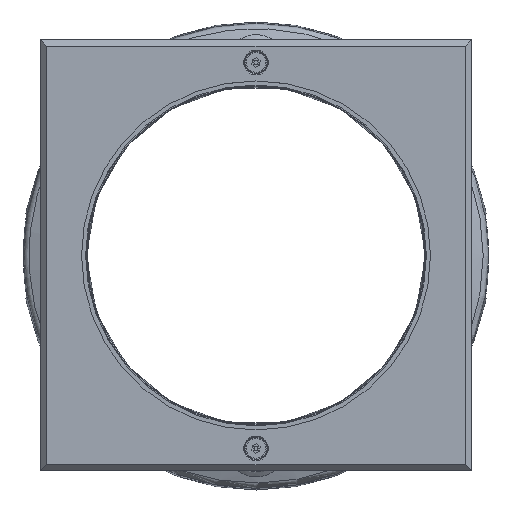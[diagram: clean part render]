
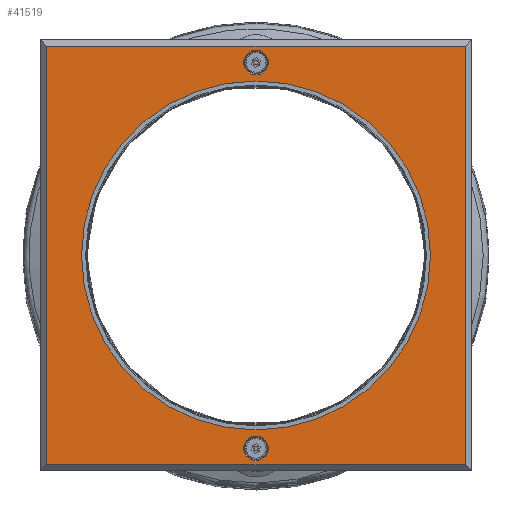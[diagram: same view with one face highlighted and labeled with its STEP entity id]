
A CAD part, top view. The second image highlights one B-rep face of the part: STEP entity #41519.
In plain terms, the highlighted planar face has unit normal (0, 0, 1).
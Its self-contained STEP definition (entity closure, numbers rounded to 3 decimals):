
#4185=LINE('',#81447,#4599);
#4186=LINE('',#81450,#4600);
#4187=LINE('',#81452,#4601);
#4188=LINE('',#81454,#4602);
#4599=VECTOR('',#48799,1000.);
#4600=VECTOR('',#48800,1000.);
#4601=VECTOR('',#48801,1000.);
#4602=VECTOR('',#48802,1000.);
#4884=PLANE('',#43851);
#13289=ORIENTED_EDGE('',*,*,#17996,.T.);
#13290=ORIENTED_EDGE('',*,*,#17997,.T.);
#13291=ORIENTED_EDGE('',*,*,#17998,.T.);
#13292=ORIENTED_EDGE('',*,*,#17999,.T.);
#13293=ORIENTED_EDGE('',*,*,#17995,.T.);
#13294=ORIENTED_EDGE('',*,*,#17994,.T.);
#13295=ORIENTED_EDGE('',*,*,#18000,.T.);
#17994=EDGE_CURVE('',#20702,#20702,#22366,.T.);
#17995=EDGE_CURVE('',#20703,#20703,#22367,.T.);
#17996=EDGE_CURVE('',#20704,#20705,#4185,.T.);
#17997=EDGE_CURVE('',#20705,#20706,#4186,.T.);
#17998=EDGE_CURVE('',#20706,#20707,#4187,.T.);
#17999=EDGE_CURVE('',#20707,#20704,#4188,.T.);
#18000=EDGE_CURVE('',#20708,#20708,#22368,.T.);
#20702=VERTEX_POINT('',#81442);
#20703=VERTEX_POINT('',#81445);
#20704=VERTEX_POINT('',#81448);
#20705=VERTEX_POINT('',#81449);
#20706=VERTEX_POINT('',#81451);
#20707=VERTEX_POINT('',#81453);
#20708=VERTEX_POINT('',#81456);
#22366=CIRCLE('',#43848,3.);
#22367=CIRCLE('',#43850,3.);
#22368=CIRCLE('',#43852,42.5);
#24303=EDGE_LOOP('',(#13289,#13290,#13291,#13292));
#24304=EDGE_LOOP('',(#13293));
#24305=EDGE_LOOP('',(#13294));
#24306=EDGE_LOOP('',(#13295));
#26262=FACE_BOUND('',#24303,.T.);
#26263=FACE_BOUND('',#24304,.T.);
#26264=FACE_BOUND('',#24305,.T.);
#26265=FACE_BOUND('',#24306,.T.);
#41519=ADVANCED_FACE('',(#26262,#26263,#26264,#26265),#4884,.T.);
#43848=AXIS2_PLACEMENT_3D('',#81441,#48791,#48792);
#43850=AXIS2_PLACEMENT_3D('',#81444,#48795,#48796);
#43851=AXIS2_PLACEMENT_3D('',#81446,#48797,#48798);
#43852=AXIS2_PLACEMENT_3D('',#81455,#48803,#48804);
#48791=DIRECTION('',(0.,0.,-1.));
#48792=DIRECTION('',(0.,-1.,0.));
#48795=DIRECTION('',(0.,0.,-1.));
#48796=DIRECTION('',(0.,-1.,0.));
#48797=DIRECTION('',(0.,0.,1.));
#48798=DIRECTION('',(0.,1.,0.));
#48799=DIRECTION('',(1.,0.,0.));
#48800=DIRECTION('',(0.,1.,0.));
#48801=DIRECTION('',(-1.,0.,0.));
#48802=DIRECTION('',(0.,-1.,0.));
#48803=DIRECTION('',(0.,0.,-1.));
#48804=DIRECTION('',(0.,-1.,0.));
#81441=CARTESIAN_POINT('',(0.,47.,78.));
#81442=CARTESIAN_POINT('',(0.,44.,78.));
#81444=CARTESIAN_POINT('',(0.,-47.,78.));
#81445=CARTESIAN_POINT('',(0.,-50.,78.));
#81446=CARTESIAN_POINT('',(0.,0.,78.));
#81447=CARTESIAN_POINT('',(0.,-51.,78.));
#81448=CARTESIAN_POINT('',(-51.,-51.,78.));
#81449=CARTESIAN_POINT('',(51.,-51.,78.));
#81450=CARTESIAN_POINT('',(51.,0.,78.));
#81451=CARTESIAN_POINT('',(51.,51.,78.));
#81452=CARTESIAN_POINT('',(0.,51.,78.));
#81453=CARTESIAN_POINT('',(-51.,51.,78.));
#81454=CARTESIAN_POINT('',(-51.,0.,78.));
#81455=CARTESIAN_POINT('',(0.,0.,78.));
#81456=CARTESIAN_POINT('',(0.,-42.5,78.));
